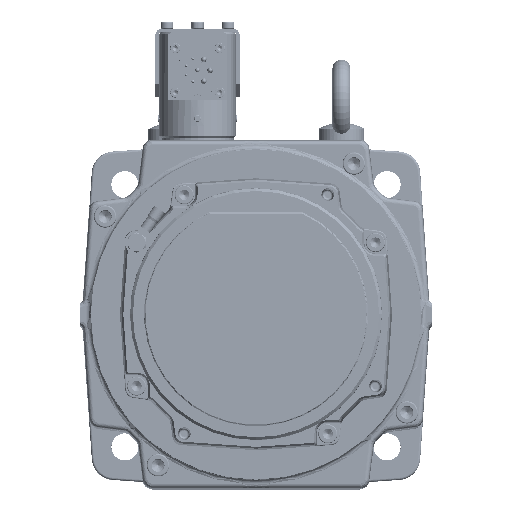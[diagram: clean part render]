
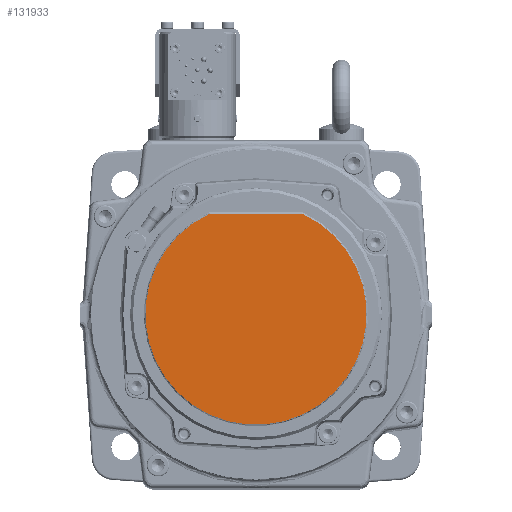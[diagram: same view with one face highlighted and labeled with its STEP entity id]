
A CAD part, top view. The second image highlights one B-rep face of the part: STEP entity #131933.
In plain terms, the highlighted planar face has unit normal (0, 0, 1).
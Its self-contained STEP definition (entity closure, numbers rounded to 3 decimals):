
#123434=CARTESIAN_POINT('',(0.,0.,63.9));
#123435=DIRECTION('',(0.,0.,-1.));
#123436=DIRECTION('',(0.418,0.908,0.));
#123437=AXIS2_PLACEMENT_3D('',#123434,#123435,#123436);
#123446=DIRECTION('',(-1.,0.,0.));
#123447=VECTOR('',#123446,41.125);
#123448=CARTESIAN_POINT('',(20.562,44.7,63.9));
#123449=LINE('',#123448,#123447);
#124124=CARTESIAN_POINT('',(20.562,44.7,63.9));
#124125=CARTESIAN_POINT('',(-20.562,44.7,63.9));
#124126=VERTEX_POINT('',#124124);
#124127=VERTEX_POINT('',#124125);
#131924=CARTESIAN_POINT('',(0.,0.,63.9));
#131925=DIRECTION('',(0.,0.,1.));
#131926=DIRECTION('',(1.,0.,0.));
#131927=AXIS2_PLACEMENT_3D('',#131924,#131925,#131926);
#131928=PLANE('',#131927);
#131929=ORIENTED_EDGE('',*,*,#131903,.T.);
#131930=ORIENTED_EDGE('',*,*,#131915,.F.);
#131931=EDGE_LOOP('',(#131929,#131930));
#131932=FACE_OUTER_BOUND('',#131931,.F.);
#131933=ADVANCED_FACE('',(#131932),#131928,.T.);
#123438=CIRCLE('',#123437,49.203);
#131903=EDGE_CURVE('',#124126,#124127,#123438,.T.);
#131915=EDGE_CURVE('',#124126,#124127,#123449,.T.);
